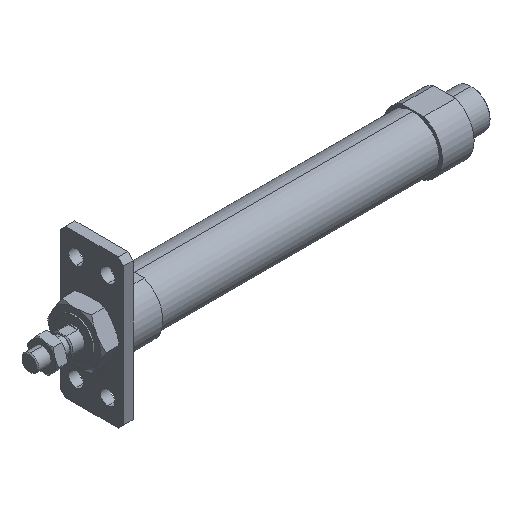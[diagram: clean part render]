
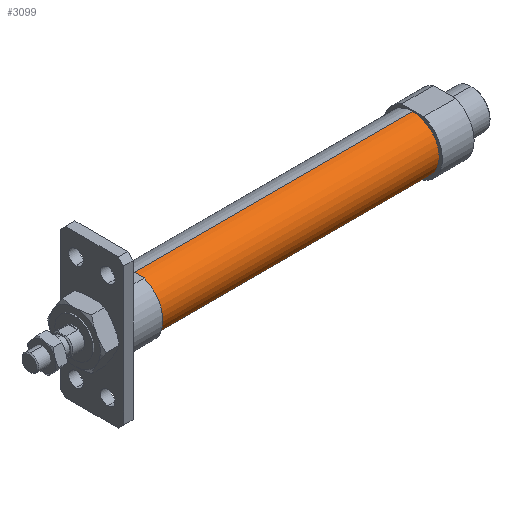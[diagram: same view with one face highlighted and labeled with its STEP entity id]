
A CAD part, isometric view. The second image highlights one B-rep face of the part: STEP entity #3099.
In plain terms, the highlighted cylindrical face has radius 12.5 mm (diameter 25 mm), a partial arc.
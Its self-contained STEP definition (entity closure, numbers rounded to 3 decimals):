
#25 = VECTOR ( 'NONE', #2855, 1000. ) ;
#107 = ORIENTED_EDGE ( 'NONE', *, *, #2271, .F. ) ;
#111 = ORIENTED_EDGE ( 'NONE', *, *, #638, .F. ) ;
#234 = VERTEX_POINT ( 'NONE', #2911 ) ;
#379 = ORIENTED_EDGE ( 'NONE', *, *, #2276, .T. ) ;
#508 = FACE_OUTER_BOUND ( 'NONE', #1185, .T. ) ;
#569 = CARTESIAN_POINT ( 'NONE',  ( 181., 0., 12.5 ) ) ;
#634 = DIRECTION ( 'NONE',  ( -1., 0., 0. ) ) ;
#638 = EDGE_CURVE ( 'NONE', #2135, #234, #995, .T. ) ;
#650 = VERTEX_POINT ( 'NONE', #3574 ) ;
#976 = AXIS2_PLACEMENT_3D ( 'NONE', #1392, #634, #2675 ) ;
#995 = CIRCLE ( 'NONE', #3051, 12.5 ) ;
#1136 = LINE ( 'NONE', #2411, #25 ) ;
#1185 = EDGE_LOOP ( 'NONE', ( #107, #379, #1819, #111 ) ) ;
#1265 = DIRECTION ( 'NONE',  ( -1., 0., 0. ) ) ;
#1339 = CYLINDRICAL_SURFACE ( 'NONE', #1840, 12.5 ) ;
#1392 = CARTESIAN_POINT ( 'NONE',  ( 181., 0., 0. ) ) ;
#1397 = DIRECTION ( 'NONE',  ( -1., 0., 0. ) ) ;
#1654 = CARTESIAN_POINT ( 'NONE',  ( -6.469, 0., 0. ) ) ;
#1705 = VECTOR ( 'NONE', #2119, 1000. ) ;
#1767 = CARTESIAN_POINT ( 'NONE',  ( 49., 0., 0. ) ) ;
#1819 = ORIENTED_EDGE ( 'NONE', *, *, #3883, .T. ) ;
#1840 = AXIS2_PLACEMENT_3D ( 'NONE', #1654, #1265, #2286 ) ;
#2119 = DIRECTION ( 'NONE',  ( -1., 0., 0. ) ) ;
#2135 = VERTEX_POINT ( 'NONE', #3559 ) ;
#2265 = VERTEX_POINT ( 'NONE', #569 ) ;
#2271 = EDGE_CURVE ( 'NONE', #650, #2135, #1136, .T. ) ;
#2276 = EDGE_CURVE ( 'NONE', #650, #2265, #3236, .T. ) ;
#2286 = DIRECTION ( 'NONE',  ( 0., 0., 1. ) ) ;
#2411 = CARTESIAN_POINT ( 'NONE',  ( -6.469, 0., -12.5 ) ) ;
#2675 = DIRECTION ( 'NONE',  ( 0., 0., 1. ) ) ;
#2855 = DIRECTION ( 'NONE',  ( -1., 0., 0. ) ) ;
#2911 = CARTESIAN_POINT ( 'NONE',  ( 49., 0., 12.5 ) ) ;
#2913 = DIRECTION ( 'NONE',  ( 0., 0., 1. ) ) ;
#3051 = AXIS2_PLACEMENT_3D ( 'NONE', #1767, #1397, #2913 ) ;
#3063 = LINE ( 'NONE', #3799, #1705 ) ;
#3099 = ADVANCED_FACE ( 'NONE', ( #508 ), #1339, .T. ) ;
#3236 = CIRCLE ( 'NONE', #976, 12.5 ) ;
#3559 = CARTESIAN_POINT ( 'NONE',  ( 49., 0., -12.5 ) ) ;
#3574 = CARTESIAN_POINT ( 'NONE',  ( 181., 0., -12.5 ) ) ;
#3799 = CARTESIAN_POINT ( 'NONE',  ( -6.469, 0., 12.5 ) ) ;
#3883 = EDGE_CURVE ( 'NONE', #2265, #234, #3063, .T. ) ;
